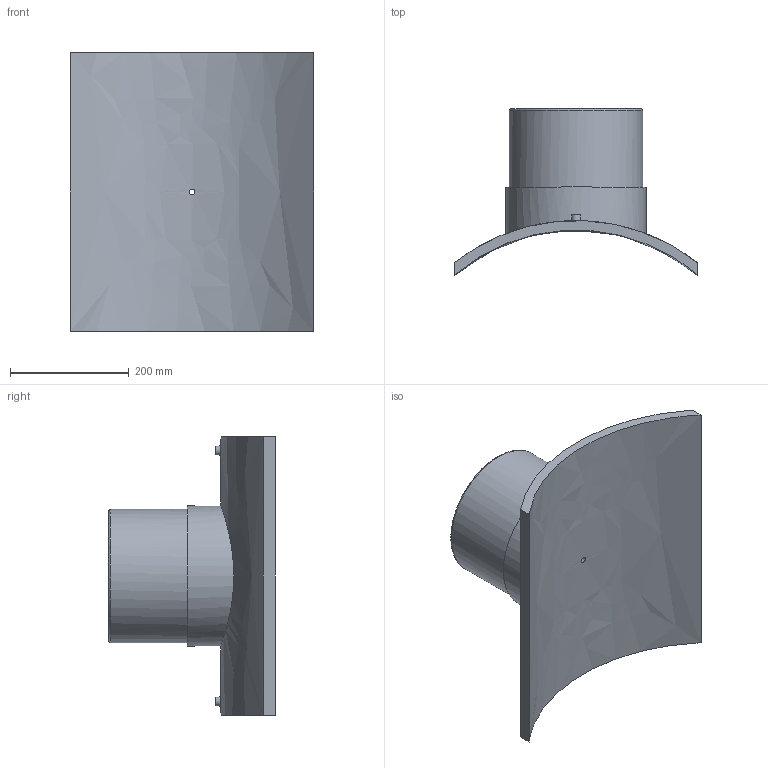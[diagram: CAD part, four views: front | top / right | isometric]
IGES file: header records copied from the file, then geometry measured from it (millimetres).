
Global section: file name: 495803630225T; native system: Autodesk Inventor 2019; preprocessor: unknown; author: KIM; date: 20240404.115335; units: millimetre
Bounding box: 410 x 280.83 x 470 mm (x, y, z)
Volume: 6442920.4 mm3; surface area: 713008.6 mm2
Topology: 1 solids, 1 shells, 29 faces, 60 edges, 43 vertices
Faces by surface type: bspline 29
